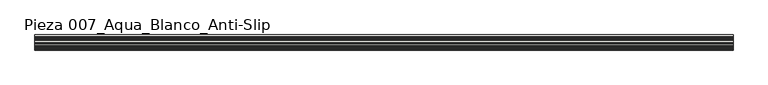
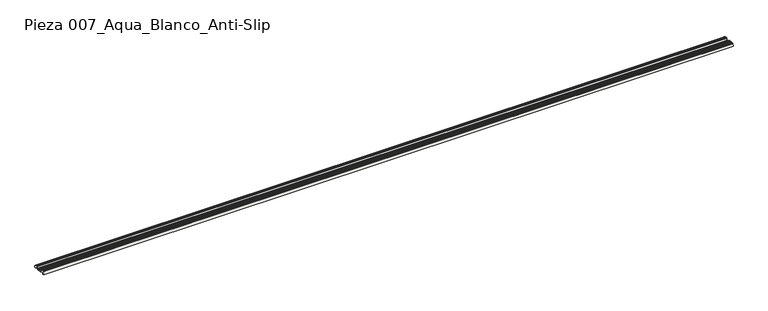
"""IFC4 building model written with IfcOpenShell, lengths in millimetres: slab geometry, ROSA GRES_007 : Pieza 007_Aqua_Blanco_Anti-Slip."""

from ifc_helpers import new_model, si_unit, point, frame, frame_2d, origin, place, context, project, spatial, polyline, circle_curve, trimmed, segment, composite_curve, outline, extrude, source, transform, mapped, element, save


def pieza_007_aqua_blanco_anti_slip_9c042eb5(model_context):
    return source(origin(), model_context, "Body", "SweptSolid", [
        extrude(outline(composite_curve([segment(trimmed(circle_curve(frame_2d((-25.9545763, 173.0767428)), 11.6464304), [point((-14.3742659, 174.3159971))], [point((-37.1820416, 176.172444))], True, "CARTESIAN"), True, "CONTINUOUS"), segment(polyline([(-37.1820416, 176.172444), (-33.8762309, 200.4746837), (-29.9345538, 200.1538709)]), True, "CONTINUOUS"), segment(trimmed(circle_curve(frame_2d((-27.3971937, 201.142641)), 2.7232081), [point((-29.9345538, 200.1538709))], [point((-24.7247274, 200.6193952))], True, "CARTESIAN"), True, "CONTINUOUS"), segment(trimmed(circle_curve(frame_2d((-20.3008643, 202.7650351)), 4.9167404), [point((-24.7247274, 200.6193952))], [point((-16.9364731, 199.1796191))], True, "CARTESIAN"), True, "CONTINUOUS"), segment(polyline([(-16.9364731, 199.1796191), (-12.7748841, 198.875801)]), True, "CONTINUOUS"), segment(trimmed(circle_curve(frame_2d((-15.1536138, 183.7870899)), 15.2750633), [point((-12.7748841, 198.875801))], [point((0.0710994, 182.547869))], False, "CARTESIAN"), True, "CONTINUOUS"), segment(polyline([(0.0710994, 182.547869), (-0.6896004, 173.202129), (-14.3742659, 174.3159971)]), True, "CONTINUOUS")], self_intersect=False)), frame((0.0, 0.0, 0.0), z_axis=(1.0, 0.0, 0.0), x_axis=(0.0, 1.0, 0.0)), (0.0, 0.0, 1.0), 5498.835331),
        extrude(outline(composite_curve([segment(trimmed(circle_curve(frame_2d((-91.1625174, 167.3774726)), 22.5372595), [point((-71.8498608, 178.9942432))], [point((-108.342302, 181.9645582))], True, "CARTESIAN"), True, "CONTINUOUS"), segment(polyline([(-108.342302, 181.9645582), (-119.2900344, 182.8556525), (-117.4809059, 205.0820876), (-115.5338707, 204.9236084), (-115.3491545, 207.1930072), (-113.0660814, 207.0070959)]), True, "CONTINUOUS"), segment(trimmed(circle_curve(frame_2d((-109.1074243, 209.7932705)), 4.8408403), [point((-113.0660814, 207.0070959))], [point((-105.2742048, 206.836894))], True, "CARTESIAN"), True, "CONTINUOUS"), segment(trimmed(circle_curve(frame_2d((-100.9933064, 209.1504161)), 4.8660534), [point((-105.2742048, 206.836894))], [point((-97.1292049, 206.1928503))], True, "CARTESIAN"), True, "CONTINUOUS"), segment(trimmed(circle_curve(frame_2d((-92.9342908, 208.0451437)), 4.5856619), [point((-97.1292049, 206.1928503))], [point((-89.0833894, 205.555394))], True, "CARTESIAN"), True, "CONTINUOUS"), segment(trimmed(circle_curve(frame_2d((-84.8780848, 207.3839748)), 4.5856619), [point((-89.0833894, 205.555394))], [point((-81.0271834, 204.8942251))], True, "CARTESIAN"), True, "CONTINUOUS"), segment(trimmed(circle_curve(frame_2d((-76.8218788, 206.722806)), 4.5856619), [point((-81.0271834, 204.8942251))], [point((-73.3820924, 203.6902881))], True, "CARTESIAN"), True, "CONTINUOUS"), segment(polyline([(-73.3820924, 203.6902881), (-69.6579726, 203.3871621), (-69.3023399, 198.236672)]), True, "CONTINUOUS"), segment(trimmed(circle_curve(frame_2d((-57.0579989, 199.0821231)), 12.2734948), [point((-69.3023399, 198.236672))], [point((-61.867532, 187.7902205))], True, "CARTESIAN"), True, "CONTINUOUS"), segment(polyline([(-61.867532, 187.7902205), (-43.8250834, 186.3216491)]), True, "CONTINUOUS"), segment(trimmed(circle_curve(frame_2d((-43.5817022, 189.3117604)), 3.0), [point((-43.8250834, 186.3216491))], [point((-40.9402045, 187.8896178))], True, "CARTESIAN"), True, "CONTINUOUS"), segment(trimmed(circle_curve(frame_2d((-106.9597263, 233.2212806)), 80.084561), [point((-40.9402045, 187.8896178))], [point((-33.8762309, 200.4746837))], True, "CARTESIAN"), True, "CONTINUOUS"), segment(polyline([(-33.8762309, 200.4746837), (-37.1820416, 176.172444), (-71.8498608, 178.9942432)]), True, "CONTINUOUS")], self_intersect=False)), frame((0.0, 0.0, 0.0), z_axis=(1.0, 0.0, 0.0), x_axis=(0.0, 1.0, 0.0)), (0.0, 0.0, 1.0), 5498.835331),
    ])


if __name__ == "__main__":
    model = new_model("IFC4")
    model_context = context("Model", 3, world=origin())
    ifc_project = project(units=[si_unit("LENGTHUNIT", "METRE", prefix="MILLI")], contexts=[model_context])
    site = spatial("IfcSite", under=ifc_project)
    building = spatial("IfcBuilding", under=site)
    placement = place(None, origin())
    pieza_007_aqua_blanco_anti_slip_shape = pieza_007_aqua_blanco_anti_slip_9c042eb5(model_context)
    element("IfcSlab", 1, ObjectType="ROSA GRES_007 : Pieza 007_Aqua_Blanco_Anti-Slip", at=placement, inside=building, context=model_context, shape_type="MappedRepresentation", body=[
        mapped(pieza_007_aqua_blanco_anti_slip_shape, transform((0.0, 0.0, 0.0), x_axis=(1.0, 0.0, 0.0), y_axis=(0.0, 1.0, 0.0), z_axis=(0.0, 0.0, 1.0))),
    ])
    save(model, "model.ifc")
